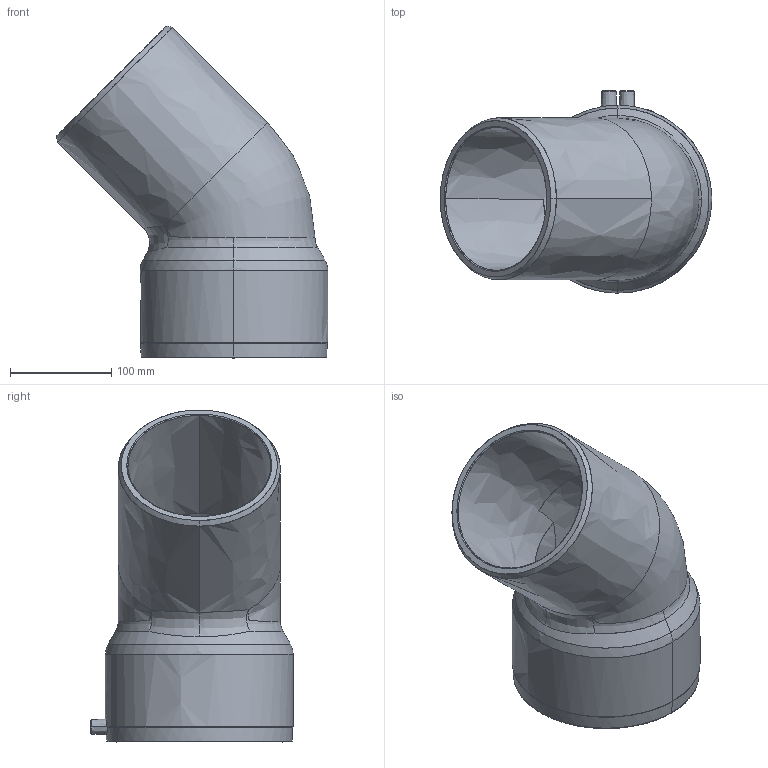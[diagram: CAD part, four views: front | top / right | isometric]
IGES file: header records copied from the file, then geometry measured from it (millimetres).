
Start section:  PTC IGES file: abms45_d160.igs
Global section: file name: abms45_d160.igs; native system: Pro/ENGINEER by Parametric Technology Corporation; preprocessor: 2011490; author: mtunjic; organization: Unknown; date: 20130723.140125; units: millimetre
Bounding box: 268.02 x 199.65 x 327.67 mm (x, y, z)
Surface area: 332394.8 mm2 (no closed solid volume)
Topology: 0 solids, 0 shells, 166 faces, 838 edges, 838 vertices
Faces by surface type: bspline 166
